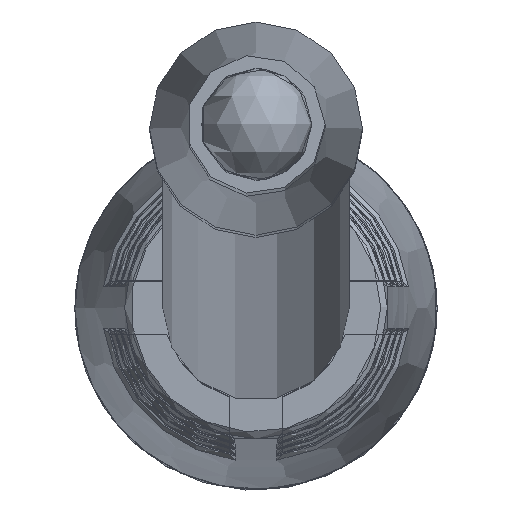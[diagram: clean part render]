
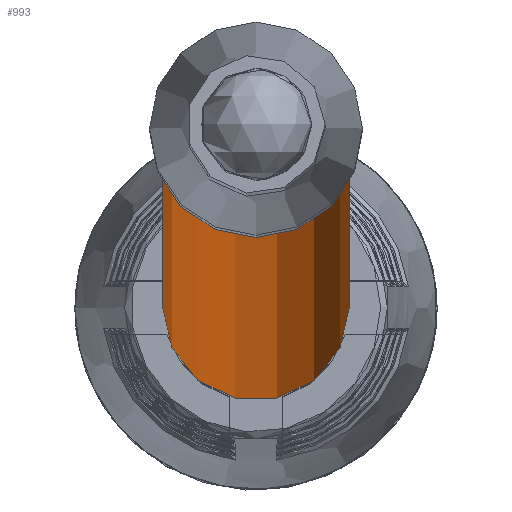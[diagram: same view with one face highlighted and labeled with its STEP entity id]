
A CAD part, top view. The second image highlights one B-rep face of the part: STEP entity #993.
In plain terms, the highlighted cylindrical face has radius 1.75 mm (diameter 3.5 mm), a full revolution.
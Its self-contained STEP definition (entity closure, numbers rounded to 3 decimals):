
#167 = EDGE_LOOP ( 'NONE', ( #2623 ) ) ;
#265 = DIRECTION ( 'NONE',  ( 0., 0., 1. ) ) ;
#318 = AXIS2_PLACEMENT_3D ( 'NONE', #5716, #265, #1757 ) ;
#993 = ADVANCED_FACE ( 'NONE', ( #3096, #4457 ), #4591, .T. ) ;
#1002 = VERTEX_POINT ( 'NONE', #2942 ) ;
#1073 = VERTEX_POINT ( 'NONE', #2472 ) ;
#1569 = CARTESIAN_POINT ( 'NONE',  ( 0., 0., 1931.6 ) ) ;
#1757 = DIRECTION ( 'NONE',  ( 1., 0., 0. ) ) ;
#1772 = DIRECTION ( 'NONE',  ( 0., 0., 1. ) ) ;
#2202 = EDGE_CURVE ( 'NONE', #1002, #1002, #4484, .T. ) ;
#2230 = AXIS2_PLACEMENT_3D ( 'NONE', #4602, #1772, #3598 ) ;
#2433 = EDGE_LOOP ( 'NONE', ( #5860 ) ) ;
#2472 = CARTESIAN_POINT ( 'NONE',  ( 1.75, 0., 1896.6 ) ) ;
#2623 = ORIENTED_EDGE ( 'NONE', *, *, #2964, .F. ) ;
#2776 = AXIS2_PLACEMENT_3D ( 'NONE', #1569, #5942, #4496 ) ;
#2942 = CARTESIAN_POINT ( 'NONE',  ( 1.75, 0., 0. ) ) ;
#2964 = EDGE_CURVE ( 'NONE', #1073, #1073, #5086, .T. ) ;
#3096 = FACE_OUTER_BOUND ( 'NONE', #2433, .T. ) ;
#3598 = DIRECTION ( 'NONE',  ( 1., 0., 0. ) ) ;
#4457 = FACE_OUTER_BOUND ( 'NONE', #167, .T. ) ;
#4484 = CIRCLE ( 'NONE', #318, 1.75 ) ;
#4496 = DIRECTION ( 'NONE',  ( -1., 0., 0. ) ) ;
#4591 = CYLINDRICAL_SURFACE ( 'NONE', #2776, 1.75 ) ;
#4602 = CARTESIAN_POINT ( 'NONE',  ( 0., 0., 1896.6 ) ) ;
#5086 = CIRCLE ( 'NONE', #2230, 1.75 ) ;
#5716 = CARTESIAN_POINT ( 'NONE',  ( 0., 0., 0. ) ) ;
#5860 = ORIENTED_EDGE ( 'NONE', *, *, #2202, .T. ) ;
#5942 = DIRECTION ( 'NONE',  ( 0., 0., -1. ) ) ;
